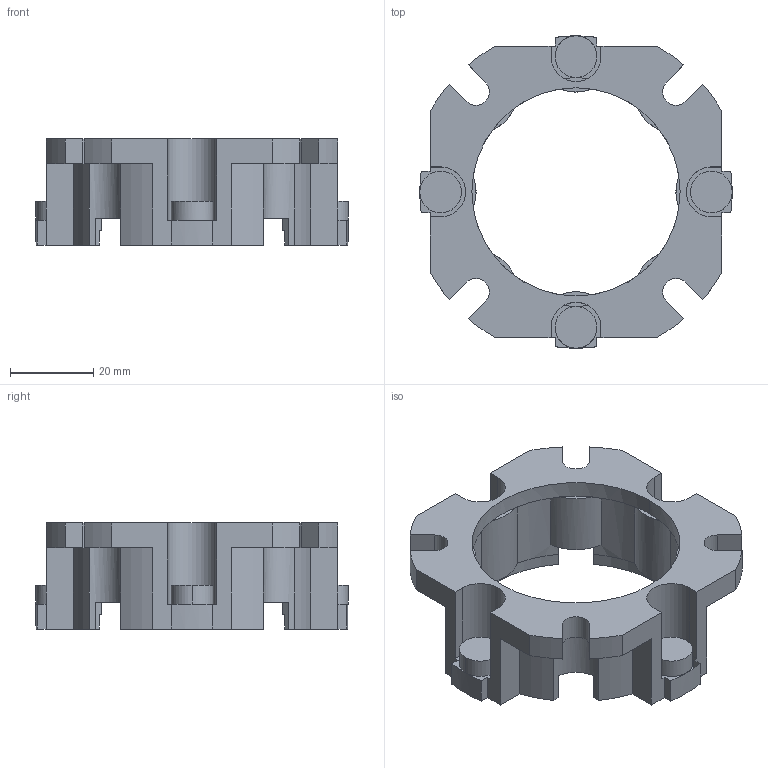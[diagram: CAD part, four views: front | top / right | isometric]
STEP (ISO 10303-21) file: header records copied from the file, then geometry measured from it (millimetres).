
FILE_DESCRIPTION(/* description */ (''),/* implementation_level */ '2;1');
FILE_NAME(/* name */ '1_FALNGIA (CAMPANA) LATERALE FA NMRV030',/* time_stamp */ '2025-10-09T13:53:20+02:00',/* author */ (''),/* organization */ (''),/* preprocessor_version */ 'ST-DEVELOPER v19.2',/* originating_system */ 'Rhino 8.23',/* authorisation */ '');
FILE_SCHEMA (('CONFIG_CONTROL_DESIGN'));
Length unit declared in the file: millimetre
Products named in the file (2): Document; FU 30FA
Bounding box: 75 x 75 x 25.5 mm (x, y, z)
Volume: 28755.3 mm3; surface area: 17115.7 mm2
Topology: 1 solids, 1 shells, 151 faces, 428 edges, 278 vertices
Faces by surface type: plane 89, cylinder 62
Entity records: 6470 total; most frequent: CARTESIAN_POINT 1467, ORIENTED_EDGE 856, DIRECTION 515, EDGE_CURVE 428, AXIS2_PLACEMENT_3D 333, VERTEX_POINT 278, B_SPLINE_CURVE_WITH_KNOTS 250, TRIMMED_CURVE 178
